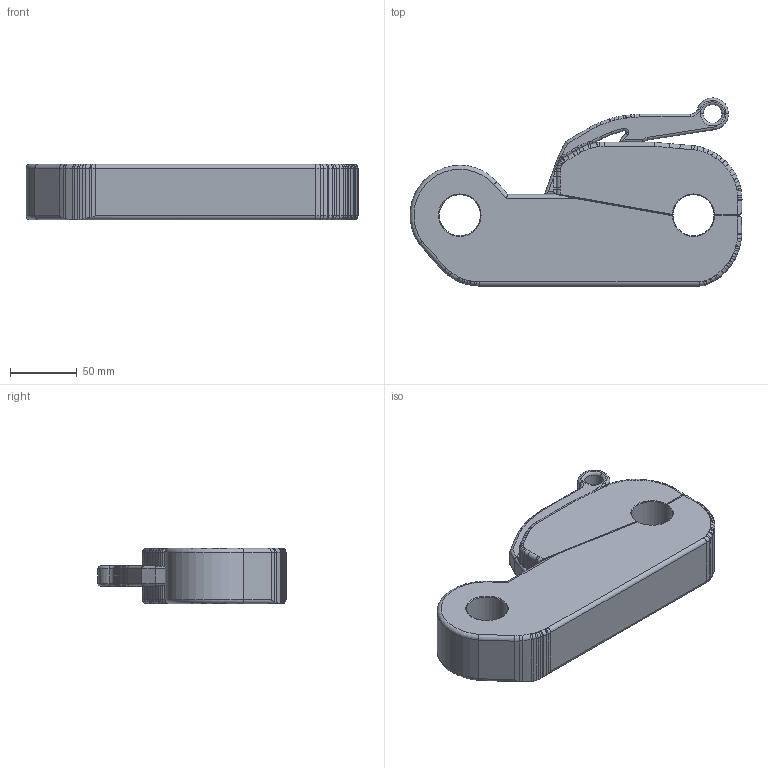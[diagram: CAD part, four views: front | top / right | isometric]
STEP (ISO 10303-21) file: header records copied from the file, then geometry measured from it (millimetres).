
FILE_DESCRIPTION (( 'STEP AP203' ), '1' );
FILE_NAME ('SeaCatch TR10.STEP', '2018-02-14T10:51:36', ( 'Z440' ), ( '' ), 'SwSTEP 2.0', 'SolidWorks 2018', '' );
FILE_SCHEMA (( 'CONFIG_CONTROL_DESIGN' ));
Length unit declared in the file: millimetre
Products named in the file (1): SeaCatch TR10
Bounding box: 247.9 x 140.39 x 41.4 mm (x, y, z)
Volume: 861352.8 mm3; surface area: 91722 mm2
Topology: 3 solids, 3 shells, 448 faces, 1043 edges, 597 vertices
Faces by surface type: torus 209, cylinder 169, plane 50, bspline 12, cone 8
Entity records: 14403 total; most frequent: CARTESIAN_POINT 4058, DIRECTION 2400, ORIENTED_EDGE 2078, AXIS2_PLACEMENT_3D 1062, EDGE_CURVE 1039, CIRCLE 625, VERTEX_POINT 597, EDGE_LOOP 452
